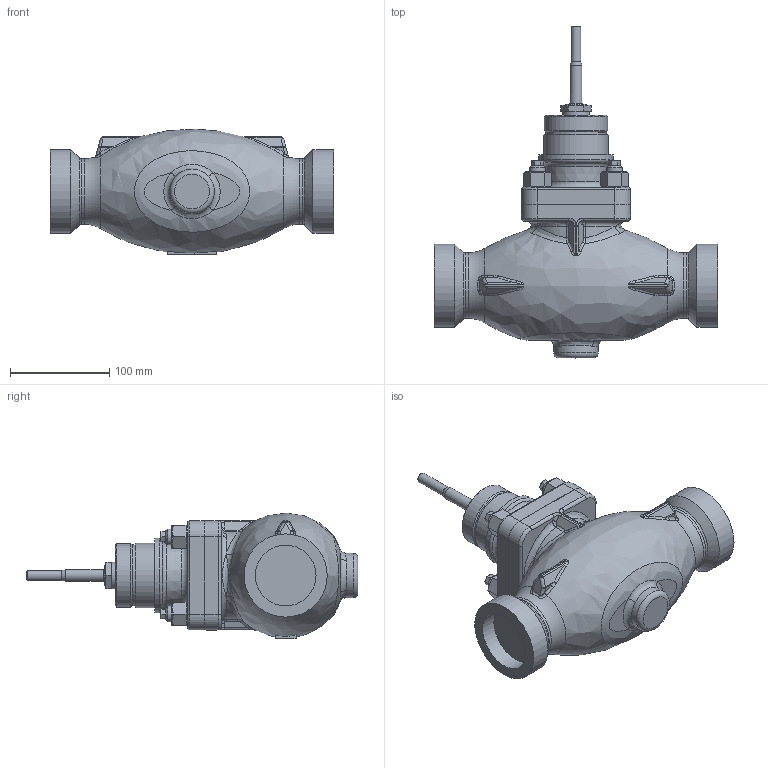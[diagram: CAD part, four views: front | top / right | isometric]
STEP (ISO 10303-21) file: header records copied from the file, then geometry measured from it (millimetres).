
FILE_DESCRIPTION(/* description */ (''),/* implementation_level */ '2;1');
FILE_NAME(/* name */ 'CV3xx_NPS_1_2_privarovaci_SW_CL600.stp',/* time_stamp */ '2017-05-05T07:52:35+02:00',/* author */ (''),/* organization */ (''),/* preprocessor_version */ 'ST-DEVELOPER v15',/* originating_system */ 'SIEMENS PLM Software NX 8.5',/* authorisation */ '');
FILE_SCHEMA (('AP203_CONFIGURATION_CONTROLLED_3D_DESIGN_OF_MECHANICAL_PARTS_AND_ASSEMBLIES_MIM_LF { 1 0 10303 403 2 1 2}'));
Length unit declared in the file: millimetre
Products named in the file (1): adam123C24F3gp39
Bounding box: 286 x 335 x 126.94 mm (x, y, z)
Volume: 2905387.7 mm3; surface area: 185408.1 mm2
Topology: 1 solids, 1 shells, 435 faces, 997 edges, 584 vertices
Faces by surface type: plane 128, cone 100, cylinder 100, bspline 78, torus 29
Full cylindrical faces by diameter (mm): 10 x1, 12 x1, 12.5 x4, 14 x1, 16 x12, 18 x5, 21 x1, 24 x8, 27 x1, 45 x1, 61.4 x2, 61.6 x1, 64 x1, 65 x1, 66 x2, 75 x1, 84 x2, 86 x1
Entity records: 13247 total; most frequent: CARTESIAN_POINT 4662, ORIENTED_EDGE 1712, DIRECTION 1668, EDGE_CURVE 856, AXIS2_PLACEMENT_3D 729, EDGE_LOOP 562, VERTEX_POINT 542, ADVANCED_FACE 435
